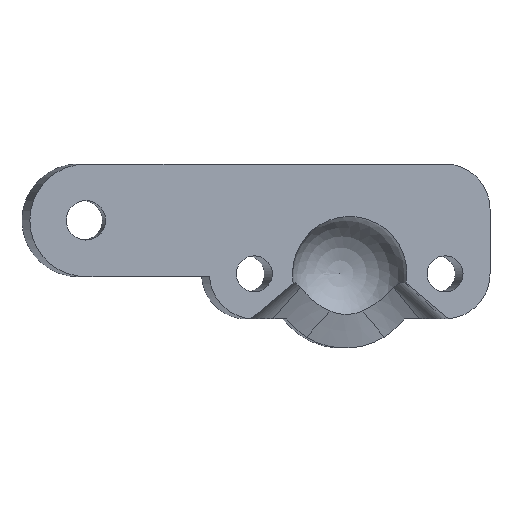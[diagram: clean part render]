
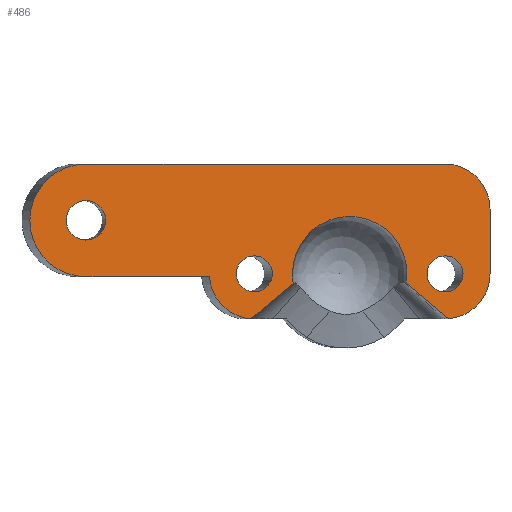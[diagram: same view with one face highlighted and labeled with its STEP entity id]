
A CAD part, left-side view. The second image highlights one B-rep face of the part: STEP entity #486.
In plain terms, the highlighted planar face has unit normal (-0.996, -0.087, 0).
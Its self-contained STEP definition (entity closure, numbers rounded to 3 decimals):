
#40=FACE_BOUND('',#106,.T.);
#41=FACE_BOUND('',#107,.T.);
#42=FACE_BOUND('',#108,.T.);
#47=PLANE('',#542);
#74=FACE_OUTER_BOUND('',#105,.T.);
#105=EDGE_LOOP('',(#377,#378,#379,#380,#381,#382,#383,#384,#385,#386,#387));
#106=EDGE_LOOP('',(#388));
#107=EDGE_LOOP('',(#389));
#108=EDGE_LOOP('',(#390));
#131=LINE('',#754,#157);
#139=LINE('',#784,#165);
#142=LINE('',#789,#168);
#143=LINE('',#796,#169);
#144=LINE('',#802,#170);
#157=VECTOR('',#609,10.);
#165=VECTOR('',#635,10.);
#168=VECTOR('',#640,10.);
#169=VECTOR('',#649,10.);
#170=VECTOR('',#654,10.);
#181=CIRCLE('',#523,1.75);
#184=CIRCLE('',#528,4.);
#192=CIRCLE('',#541,5.);
#193=CIRCLE('',#543,4.);
#194=CIRCLE('',#544,5.1);
#195=CIRCLE('',#545,5.1);
#196=CIRCLE('',#546,4.);
#197=CIRCLE('',#547,1.6);
#198=CIRCLE('',#548,1.6);
#210=VERTEX_POINT('',#736);
#214=VERTEX_POINT('',#747);
#215=VERTEX_POINT('',#749);
#216=VERTEX_POINT('',#753);
#228=VERTEX_POINT('',#781);
#229=VERTEX_POINT('',#783);
#230=VERTEX_POINT('',#787);
#231=VERTEX_POINT('',#793);
#232=VERTEX_POINT('',#795);
#233=VERTEX_POINT('',#797);
#234=VERTEX_POINT('',#799);
#235=VERTEX_POINT('',#801);
#236=VERTEX_POINT('',#804);
#237=VERTEX_POINT('',#806);
#261=EDGE_CURVE('',#210,#210,#181,.T.);
#266=EDGE_CURVE('',#215,#214,#184,.T.);
#268=EDGE_CURVE('',#215,#216,#131,.T.);
#283=EDGE_CURVE('',#229,#228,#139,.T.);
#286=EDGE_CURVE('',#230,#214,#142,.T.);
#287=EDGE_CURVE('',#230,#229,#192,.T.);
#288=EDGE_CURVE('',#228,#231,#193,.T.);
#289=EDGE_CURVE('',#231,#232,#143,.T.);
#290=EDGE_CURVE('',#232,#233,#194,.F.);
#291=EDGE_CURVE('',#233,#234,#195,.F.);
#292=EDGE_CURVE('',#235,#234,#144,.T.);
#293=EDGE_CURVE('',#216,#235,#196,.T.);
#294=EDGE_CURVE('',#236,#236,#197,.T.);
#295=EDGE_CURVE('',#237,#237,#198,.T.);
#377=ORIENTED_EDGE('',*,*,#266,.T.);
#378=ORIENTED_EDGE('',*,*,#286,.F.);
#379=ORIENTED_EDGE('',*,*,#287,.T.);
#380=ORIENTED_EDGE('',*,*,#283,.T.);
#381=ORIENTED_EDGE('',*,*,#288,.T.);
#382=ORIENTED_EDGE('',*,*,#289,.T.);
#383=ORIENTED_EDGE('',*,*,#290,.T.);
#384=ORIENTED_EDGE('',*,*,#291,.T.);
#385=ORIENTED_EDGE('',*,*,#292,.F.);
#386=ORIENTED_EDGE('',*,*,#293,.F.);
#387=ORIENTED_EDGE('',*,*,#268,.F.);
#388=ORIENTED_EDGE('',*,*,#261,.T.);
#389=ORIENTED_EDGE('',*,*,#294,.T.);
#390=ORIENTED_EDGE('',*,*,#295,.F.);
#486=ADVANCED_FACE('',(#74,#40,#41,#42),#47,.T.);
#523=AXIS2_PLACEMENT_3D('',#738,#592,#593);
#528=AXIS2_PLACEMENT_3D('',#750,#604,#605);
#541=AXIS2_PLACEMENT_3D('',#791,#643,#644);
#542=AXIS2_PLACEMENT_3D('',#792,#645,#646);
#543=AXIS2_PLACEMENT_3D('',#794,#647,#648);
#544=AXIS2_PLACEMENT_3D('',#798,#650,#651);
#545=AXIS2_PLACEMENT_3D('',#800,#652,#653);
#546=AXIS2_PLACEMENT_3D('',#803,#655,#656);
#547=AXIS2_PLACEMENT_3D('',#805,#657,#658);
#548=AXIS2_PLACEMENT_3D('',#807,#659,#660);
#592=DIRECTION('center_axis',(0.996,0.087,0.));
#593=DIRECTION('ref_axis',(0.087,-0.996,0.));
#604=DIRECTION('center_axis',(-0.996,-0.087,0.));
#605=DIRECTION('ref_axis',(0.062,-0.704,0.707));
#609=DIRECTION('',(0.,0.,-1.));
#635=DIRECTION('',(0.087,-0.996,0.));
#640=DIRECTION('',(0.087,-0.996,0.));
#643=DIRECTION('center_axis',(-0.996,-0.087,0.));
#644=DIRECTION('ref_axis',(0.,0.,1.));
#645=DIRECTION('center_axis',(-0.996,-0.087,0.));
#646=DIRECTION('ref_axis',(0.,0.,-1.));
#647=DIRECTION('center_axis',(-0.996,-0.087,0.));
#648=DIRECTION('ref_axis',(-0.062,0.704,-0.707));
#649=DIRECTION('',(0.067,-0.763,0.643));
#650=DIRECTION('center_axis',(-0.996,-0.087,0.));
#651=DIRECTION('ref_axis',(0.,0.,
1.));
#652=DIRECTION('center_axis',(-0.996,-0.087,0.));
#653=DIRECTION('ref_axis',(0.,0.,
1.));
#654=DIRECTION('',(-0.067,0.763,0.643));
#655=DIRECTION('center_axis',(0.996,0.087,0.));
#656=DIRECTION('ref_axis',(0.062,-0.704,-0.707));
#657=DIRECTION('center_axis',(0.996,0.087,0.));
#658=DIRECTION('ref_axis',(-0.087,0.996,0.));
#659=DIRECTION('center_axis',(-0.996,-0.087,0.));
#660=DIRECTION('ref_axis',(0.087,-0.996,0.));
#736=CARTESIAN_POINT('',(-4.03,24.994,69.75));
#738=CARTESIAN_POINT('Origin',(-3.877,23.251,69.75));
#747=CARTESIAN_POINT('',(-1.088,-8.628,74.75));
#749=CARTESIAN_POINT('',(-0.74,-12.612,70.75));
#750=CARTESIAN_POINT('Origin',(-1.088,-8.628,70.75));
#753=CARTESIAN_POINT('',(-0.74,-12.612,65.));
#754=CARTESIAN_POINT('',(-0.74,-12.612,69.343));
#781=CARTESIAN_POINT('',(-2.918,12.285,64.75));
#783=CARTESIAN_POINT('',(-3.877,23.251,64.75));
#784=CARTESIAN_POINT('',(-3.877,23.251,64.75));
#787=CARTESIAN_POINT('',(-3.877,23.251,74.75));
#789=CARTESIAN_POINT('',(-3.158,15.032,74.75));
#791=CARTESIAN_POINT('Origin',(-3.877,23.251,69.75));
#792=CARTESIAN_POINT('Origin',(-1.829,-0.16,65.686));
#793=CARTESIAN_POINT('',(-2.596,8.605,61.011));
#794=CARTESIAN_POINT('Origin',(-2.57,8.308,65.));
#795=CARTESIAN_POINT('',(-2.268,4.853,64.171));
#796=CARTESIAN_POINT('',(-2.108,3.033,65.705));
#797=CARTESIAN_POINT('',(-2.274,4.921,65.));
#798=CARTESIAN_POINT('Origin',(-1.829,-0.16,65.));
#799=CARTESIAN_POINT('',(-1.39,-5.173,64.171));
#800=CARTESIAN_POINT('Origin',(-1.829,-0.16,65.));
#801=CARTESIAN_POINT('',(-1.062,-8.925,61.011));
#802=CARTESIAN_POINT('',(-1.55,-3.353,65.705));
#803=CARTESIAN_POINT('Origin',(-1.088,-8.628,65.));
#804=CARTESIAN_POINT('',(-0.949,-10.222,65.));
#805=CARTESIAN_POINT('Origin',(-1.088,-8.628,65.));
#806=CARTESIAN_POINT('',(-2.709,9.902,65.));
#807=CARTESIAN_POINT('Origin',(-2.57,8.308,65.));
